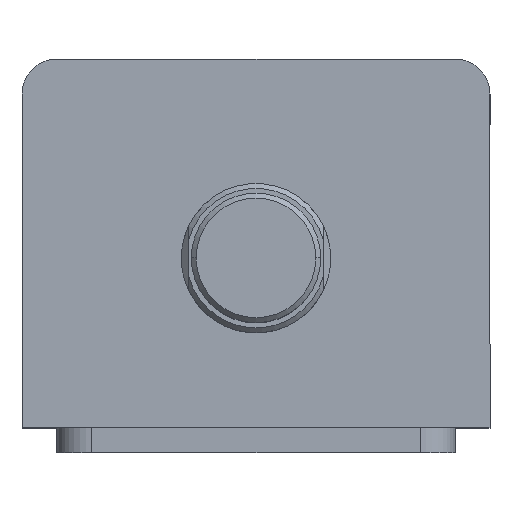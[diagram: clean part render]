
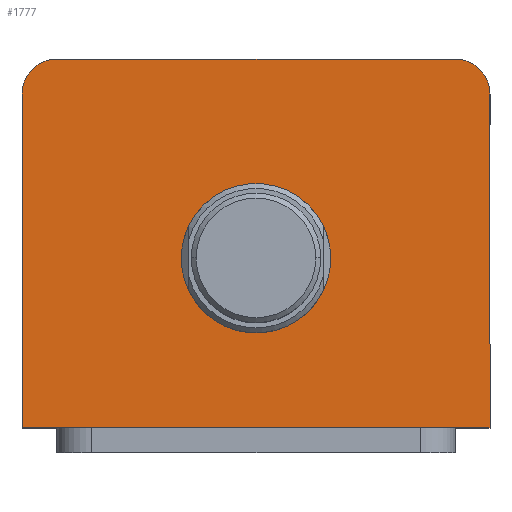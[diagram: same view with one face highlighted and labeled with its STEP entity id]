
A CAD part, top view. The second image highlights one B-rep face of the part: STEP entity #1777.
In plain terms, the highlighted planar face has unit normal (0, 0, 1).
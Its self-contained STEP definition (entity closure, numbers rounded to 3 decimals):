
#33 = VECTOR ( 'NONE', #2326, 1000. ) ;
#61 = LINE ( 'NONE', #2534, #64 ) ;
#63 = CIRCLE ( 'NONE', #670, 7. ) ;
#64 = VECTOR ( 'NONE', #2532, 1000. ) ;
#168 = CIRCLE ( 'NONE', #2219, 15. ) ;
#301 = EDGE_CURVE ( 'NONE', #342, #2961, #600, .T. ) ;
#342 = VERTEX_POINT ( 'NONE', #2711 ) ;
#347 = VERTEX_POINT ( 'NONE', #2705 ) ;
#388 = EDGE_LOOP ( 'NONE', ( #2811, #2813 ) ) ;
#413 = EDGE_LOOP ( 'NONE', ( #2814, #2815, #635, #2862, #2745, #2746 ) ) ;
#600 = LINE ( 'NONE', #2663, #605 ) ;
#605 = VECTOR ( 'NONE', #2656, 1000. ) ;
#635 = ORIENTED_EDGE ( 'NONE', *, *, #301, .T. ) ;
#670 = AXIS2_PLACEMENT_3D ( 'NONE', #2529, #2527, #2526 ) ;
#689 = AXIS2_PLACEMENT_3D ( 'NONE', #957, #956, #1079 ) ;
#702 = AXIS2_PLACEMENT_3D ( 'NONE', #1049, #1032, #1030 ) ;
#824 = AXIS2_PLACEMENT_3D ( 'NONE', #1162, #1161, #1142 ) ;
#949 = EDGE_CURVE ( 'NONE', #347, #3005, #1438, .T. ) ;
#956 = DIRECTION ( 'NONE',  ( 0., 0., 1. ) ) ;
#957 = CARTESIAN_POINT ( 'NONE',  ( 0., -3., 95. ) ) ;
#1030 = DIRECTION ( 'NONE',  ( 1., 0., 0. ) ) ;
#1032 = DIRECTION ( 'NONE',  ( 0., 0., 1. ) ) ;
#1039 = PLANE ( 'NONE',  #702 ) ;
#1049 = CARTESIAN_POINT ( 'NONE',  ( 0., 0., 95. ) ) ;
#1079 = DIRECTION ( 'NONE',  ( 1., 0., 0. ) ) ;
#1142 = DIRECTION ( 'NONE',  ( 1., 0., 0. ) ) ;
#1161 = DIRECTION ( 'NONE',  ( 0., 0., 1. ) ) ;
#1162 = CARTESIAN_POINT ( 'NONE',  ( 40., 30., 95. ) ) ;
#1438 = CIRCLE ( 'NONE', #824, 7. ) ;
#1586 = FACE_BOUND ( 'NONE', #388, .T. ) ;
#1589 = FACE_OUTER_BOUND ( 'NONE', #413, .T. ) ;
#1611 = CIRCLE ( 'NONE', #689, 15. ) ;
#1638 = LINE ( 'NONE', #2464, #1641 ) ;
#1641 = VECTOR ( 'NONE', #2462, 1000. ) ;
#1661 = LINE ( 'NONE', #2304, #33 ) ;
#1777 = ADVANCED_FACE ( 'NONE', ( #1586, #1589 ), #1039, .T. ) ;
#1878 = CARTESIAN_POINT ( 'NONE',  ( -40., 37., 95. ) ) ;
#1906 = CARTESIAN_POINT ( 'NONE',  ( 47., -37., 95. ) ) ;
#1950 = CARTESIAN_POINT ( 'NONE',  ( -15., -3., 95. ) ) ;
#1965 = CARTESIAN_POINT ( 'NONE',  ( 15., -3., 95. ) ) ;
#1973 = CARTESIAN_POINT ( 'NONE',  ( 40., 37., 95. ) ) ;
#1998 = CARTESIAN_POINT ( 'NONE',  ( -47., -37., 95. ) ) ;
#2079 = EDGE_CURVE ( 'NONE', #2945, #2994, #1611, .T. ) ;
#2095 = EDGE_CURVE ( 'NONE', #3005, #3011, #1638, .T. ) ;
#2113 = EDGE_CURVE ( 'NONE', #2961, #2944, #1661, .T. ) ;
#2131 = EDGE_CURVE ( 'NONE', #2944, #347, #61, .T. ) ;
#2132 = EDGE_CURVE ( 'NONE', #3011, #342, #63, .T. ) ;
#2219 = AXIS2_PLACEMENT_3D ( 'NONE', #2245, #2244, #2243 ) ;
#2243 = DIRECTION ( 'NONE',  ( 1., 0., 0. ) ) ;
#2244 = DIRECTION ( 'NONE',  ( 0., 0., 1. ) ) ;
#2245 = CARTESIAN_POINT ( 'NONE',  ( 0., -3., 95. ) ) ;
#2304 = CARTESIAN_POINT ( 'NONE',  ( -47., -37., 95. ) ) ;
#2326 = DIRECTION ( 'NONE',  ( 1., 0., 0. ) ) ;
#2462 = DIRECTION ( 'NONE',  ( -1., 0., 0. ) ) ;
#2464 = CARTESIAN_POINT ( 'NONE',  ( -47., 37., 95. ) ) ;
#2526 = DIRECTION ( 'NONE',  ( 1., 0., 0. ) ) ;
#2527 = DIRECTION ( 'NONE',  ( 0., 0., 1. ) ) ;
#2529 = CARTESIAN_POINT ( 'NONE',  ( -40., 30., 95. ) ) ;
#2532 = DIRECTION ( 'NONE',  ( 0., 1., 0. ) ) ;
#2534 = CARTESIAN_POINT ( 'NONE',  ( 47., 37., 95. ) ) ;
#2600 = EDGE_CURVE ( 'NONE', #2994, #2945, #168, .T. ) ;
#2656 = DIRECTION ( 'NONE',  ( 0., -1., 0. ) ) ;
#2663 = CARTESIAN_POINT ( 'NONE',  ( -47., 37., 95. ) ) ;
#2705 = CARTESIAN_POINT ( 'NONE',  ( 47., 30., 95. ) ) ;
#2711 = CARTESIAN_POINT ( 'NONE',  ( -47., 30., 95. ) ) ;
#2745 = ORIENTED_EDGE ( 'NONE', *, *, #2131, .T. ) ;
#2746 = ORIENTED_EDGE ( 'NONE', *, *, #949, .T. ) ;
#2811 = ORIENTED_EDGE ( 'NONE', *, *, #2079, .F. ) ;
#2813 = ORIENTED_EDGE ( 'NONE', *, *, #2600, .F. ) ;
#2814 = ORIENTED_EDGE ( 'NONE', *, *, #2095, .T. ) ;
#2815 = ORIENTED_EDGE ( 'NONE', *, *, #2132, .T. ) ;
#2862 = ORIENTED_EDGE ( 'NONE', *, *, #2113, .T. ) ;
#2944 = VERTEX_POINT ( 'NONE', #1906 ) ;
#2945 = VERTEX_POINT ( 'NONE', #1965 ) ;
#2961 = VERTEX_POINT ( 'NONE', #1998 ) ;
#2994 = VERTEX_POINT ( 'NONE', #1950 ) ;
#3005 = VERTEX_POINT ( 'NONE', #1973 ) ;
#3011 = VERTEX_POINT ( 'NONE', #1878 ) ;
